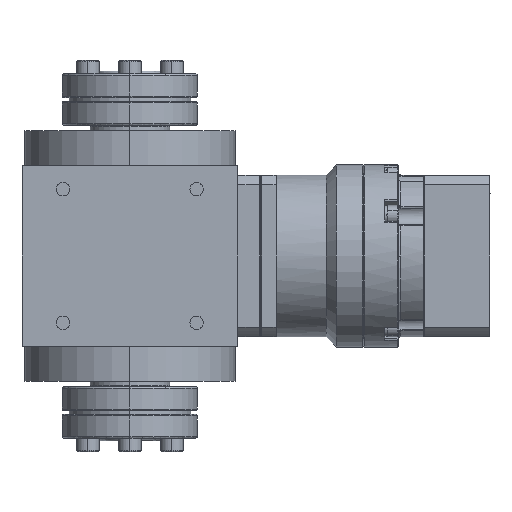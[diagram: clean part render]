
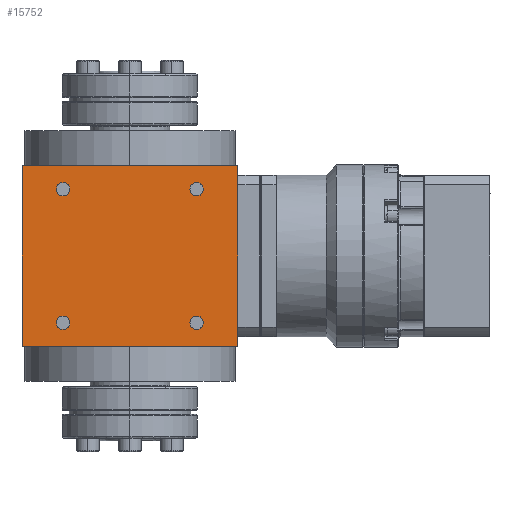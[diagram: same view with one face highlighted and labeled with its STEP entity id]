
A CAD part, left-side view. The second image highlights one B-rep face of the part: STEP entity #15752.
In plain terms, the highlighted planar face has unit normal (-1, 0, 0).
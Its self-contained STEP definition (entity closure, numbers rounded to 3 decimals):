
#1110 = ORIENTED_EDGE ( 'NONE', *, *, #10620, .T. ) ;
#1985 = DIRECTION ( 'NONE',  ( 0., -1., 0. ) ) ;
#2015 = CARTESIAN_POINT ( 'NONE',  ( -40., -40., -33.5 ) ) ;
#2031 = FACE_BOUND ( 'NONE', #3120, .T. ) ;
#2260 = AXIS2_PLACEMENT_3D ( 'NONE', #31205, #8924, #5743 ) ;
#2408 = DIRECTION ( 'NONE',  ( 0., 0., 1. ) ) ;
#2791 = CARTESIAN_POINT ( 'NONE',  ( -40., 24.749, -24.749 ) ) ;
#2846 = AXIS2_PLACEMENT_3D ( 'NONE', #10880, #11052, #22199 ) ;
#3120 = EDGE_LOOP ( 'NONE', ( #7976, #27048 ) ) ;
#3171 = CARTESIAN_POINT ( 'NONE',  ( -40., -40., 33.5 ) ) ;
#3531 = CARTESIAN_POINT ( 'NONE',  ( -40., -22.249, 24.749 ) ) ;
#4159 = ORIENTED_EDGE ( 'NONE', *, *, #10598, .T. ) ;
#5093 = ORIENTED_EDGE ( 'NONE', *, *, #7721, .T. ) ;
#5448 = EDGE_LOOP ( 'NONE', ( #28177, #9777 ) ) ;
#5529 = CARTESIAN_POINT ( 'NONE',  ( -40., 40., -33.5 ) ) ;
#5708 = CARTESIAN_POINT ( 'NONE',  ( -40., 27.249, -24.749 ) ) ;
#5709 = DIRECTION ( 'NONE',  ( 0., -1., 0. ) ) ;
#5743 = DIRECTION ( 'NONE',  ( 0., -1., 0. ) ) ;
#5856 = ORIENTED_EDGE ( 'NONE', *, *, #13141, .F. ) ;
#6866 = CARTESIAN_POINT ( 'NONE',  ( -40., -22.249, -24.749 ) ) ;
#7721 = EDGE_CURVE ( 'NONE', #26248, #22637, #9272, .T. ) ;
#7976 = ORIENTED_EDGE ( 'NONE', *, *, #16699, .T. ) ;
#8655 = ORIENTED_EDGE ( 'NONE', *, *, #23087, .T. ) ;
#8760 = VECTOR ( 'NONE', #21172, 1000. ) ;
#8808 = VERTEX_POINT ( 'NONE', #13868 ) ;
#8924 = DIRECTION ( 'NONE',  ( 1., 0., 0. ) ) ;
#9272 = CIRCLE ( 'NONE', #27656, 2.5 ) ;
#9520 = CARTESIAN_POINT ( 'NONE',  ( -40., 40., 33.5 ) ) ;
#9777 = ORIENTED_EDGE ( 'NONE', *, *, #35123, .T. ) ;
#9845 = CARTESIAN_POINT ( 'NONE',  ( -40., 0., -33.5 ) ) ;
#10333 = AXIS2_PLACEMENT_3D ( 'NONE', #21916, #30834, #24689 ) ;
#10598 = EDGE_CURVE ( 'NONE', #31717, #23980, #13746, .T. ) ;
#10620 = EDGE_CURVE ( 'NONE', #29824, #26380, #15667, .T. ) ;
#10880 = CARTESIAN_POINT ( 'NONE',  ( -40., -24.749, -24.749 ) ) ;
#11052 = DIRECTION ( 'NONE',  ( 1., 0., 0. ) ) ;
#11162 = DIRECTION ( 'NONE',  ( 0., -1., 0. ) ) ;
#11842 = AXIS2_PLACEMENT_3D ( 'NONE', #2791, #19878, #11162 ) ;
#11857 = CARTESIAN_POINT ( 'NONE',  ( -40., -24.749, -24.749 ) ) ;
#11895 = AXIS2_PLACEMENT_3D ( 'NONE', #15595, #15769, #1985 ) ;
#12061 = EDGE_LOOP ( 'NONE', ( #12415, #1110 ) ) ;
#12178 = DIRECTION ( 'NONE',  ( 0., -1., 0. ) ) ;
#12415 = ORIENTED_EDGE ( 'NONE', *, *, #23880, .T. ) ;
#12957 = CIRCLE ( 'NONE', #2846, 2.5 ) ;
#12970 = CIRCLE ( 'NONE', #2260, 2.5 ) ;
#13141 = EDGE_CURVE ( 'NONE', #36591, #15647, #34169, .T. ) ;
#13217 = VERTEX_POINT ( 'NONE', #6866 ) ;
#13379 = DIRECTION ( 'NONE',  ( 0., 0., 1. ) ) ;
#13390 = CARTESIAN_POINT ( 'NONE',  ( -40., 40., -33.5 ) ) ;
#13746 = LINE ( 'NONE', #2015, #29825 ) ;
#13868 = CARTESIAN_POINT ( 'NONE',  ( -40., -27.249, 24.749 ) ) ;
#14617 = LINE ( 'NONE', #25566, #23230 ) ;
#15595 = CARTESIAN_POINT ( 'NONE',  ( -40., -24.749, 24.749 ) ) ;
#15647 = VERTEX_POINT ( 'NONE', #9520 ) ;
#15667 = CIRCLE ( 'NONE', #10333, 2.5 ) ;
#15752 = ADVANCED_FACE ( 'NONE', ( #24348, #27498, #2031, #19493, #22280 ), #18773, .T. ) ;
#15769 = DIRECTION ( 'NONE',  ( 1., 0., 0. ) ) ;
#16064 = CARTESIAN_POINT ( 'NONE',  ( -40., -40., -33.5 ) ) ;
#16268 = DIRECTION ( 'NONE',  ( 0., -1., 0. ) ) ;
#16699 = EDGE_CURVE ( 'NONE', #36154, #13217, #12957, .T. ) ;
#17195 = DIRECTION ( 'NONE',  ( 1., 0., 0. ) ) ;
#18485 = CARTESIAN_POINT ( 'NONE',  ( -40., -27.249, -24.749 ) ) ;
#18773 = PLANE ( 'NONE',  #34814 ) ;
#19493 = FACE_BOUND ( 'NONE', #5448, .T. ) ;
#19878 = DIRECTION ( 'NONE',  ( 1., 0., 0. ) ) ;
#20048 = DIRECTION ( 'NONE',  ( 0., 0., 1. ) ) ;
#21144 = VERTEX_POINT ( 'NONE', #3531 ) ;
#21172 = DIRECTION ( 'NONE',  ( 0., -1., 0. ) ) ;
#21570 = EDGE_CURVE ( 'NONE', #13217, #36154, #27701, .T. ) ;
#21916 = CARTESIAN_POINT ( 'NONE',  ( -40., 24.749, -24.749 ) ) ;
#22021 = EDGE_LOOP ( 'NONE', ( #5856, #8655, #4159, #29405 ) ) ;
#22199 = DIRECTION ( 'NONE',  ( 0., -1., 0. ) ) ;
#22280 = FACE_BOUND ( 'NONE', #30060, .T. ) ;
#22637 = VERTEX_POINT ( 'NONE', #35514 ) ;
#23087 = EDGE_CURVE ( 'NONE', #36591, #31717, #26748, .T. ) ;
#23230 = VECTOR ( 'NONE', #31344, 1000. ) ;
#23880 = EDGE_CURVE ( 'NONE', #26380, #29824, #29543, .T. ) ;
#23980 = VERTEX_POINT ( 'NONE', #3171 ) ;
#24348 = FACE_OUTER_BOUND ( 'NONE', #22021, .T. ) ;
#24689 = DIRECTION ( 'NONE',  ( 0., -1., 0. ) ) ;
#24705 = DIRECTION ( 'NONE',  ( -1., 0., 0. ) ) ;
#25212 = DIRECTION ( 'NONE',  ( 1., 0., 0. ) ) ;
#25566 = CARTESIAN_POINT ( 'NONE',  ( -40., 0., 33.5 ) ) ;
#25742 = EDGE_CURVE ( 'NONE', #8808, #21144, #33256, .T. ) ;
#25893 = ORIENTED_EDGE ( 'NONE', *, *, #34422, .T. ) ;
#26191 = CARTESIAN_POINT ( 'NONE',  ( -40., 40., -33.5 ) ) ;
#26248 = VERTEX_POINT ( 'NONE', #35953 ) ;
#26273 = CARTESIAN_POINT ( 'NONE',  ( -40., 22.249, -24.749 ) ) ;
#26380 = VERTEX_POINT ( 'NONE', #26273 ) ;
#26748 = LINE ( 'NONE', #9845, #8760 ) ;
#27048 = ORIENTED_EDGE ( 'NONE', *, *, #21570, .T. ) ;
#27498 = FACE_BOUND ( 'NONE', #12061, .T. ) ;
#27656 = AXIS2_PLACEMENT_3D ( 'NONE', #34091, #17195, #12178 ) ;
#27701 = CIRCLE ( 'NONE', #32476, 2.5 ) ;
#28177 = ORIENTED_EDGE ( 'NONE', *, *, #25742, .T. ) ;
#29405 = ORIENTED_EDGE ( 'NONE', *, *, #33721, .F. ) ;
#29543 = CIRCLE ( 'NONE', #11842, 2.5 ) ;
#29824 = VERTEX_POINT ( 'NONE', #5708 ) ;
#29825 = VECTOR ( 'NONE', #13379, 1000. ) ;
#30025 = CARTESIAN_POINT ( 'NONE',  ( -40., -24.749, 24.749 ) ) ;
#30060 = EDGE_LOOP ( 'NONE', ( #5093, #25893 ) ) ;
#30827 = CIRCLE ( 'NONE', #33760, 2.5 ) ;
#30834 = DIRECTION ( 'NONE',  ( 1., 0., 0. ) ) ;
#31205 = CARTESIAN_POINT ( 'NONE',  ( -40., 24.749, 24.749 ) ) ;
#31344 = DIRECTION ( 'NONE',  ( 0., -1., 0. ) ) ;
#31717 = VERTEX_POINT ( 'NONE', #16064 ) ;
#32476 = AXIS2_PLACEMENT_3D ( 'NONE', #11857, #25212, #5709 ) ;
#33256 = CIRCLE ( 'NONE', #11895, 2.5 ) ;
#33721 = EDGE_CURVE ( 'NONE', #15647, #23980, #14617, .T. ) ;
#33760 = AXIS2_PLACEMENT_3D ( 'NONE', #30025, #35956, #16268 ) ;
#34091 = CARTESIAN_POINT ( 'NONE',  ( -40., 24.749, 24.749 ) ) ;
#34169 = LINE ( 'NONE', #26191, #35347 ) ;
#34422 = EDGE_CURVE ( 'NONE', #22637, #26248, #12970, .T. ) ;
#34814 = AXIS2_PLACEMENT_3D ( 'NONE', #13390, #24705, #2408 ) ;
#35123 = EDGE_CURVE ( 'NONE', #21144, #8808, #30827, .T. ) ;
#35347 = VECTOR ( 'NONE', #20048, 1000. ) ;
#35514 = CARTESIAN_POINT ( 'NONE',  ( -40., 27.249, 24.749 ) ) ;
#35953 = CARTESIAN_POINT ( 'NONE',  ( -40., 22.249, 24.749 ) ) ;
#35956 = DIRECTION ( 'NONE',  ( 1., 0., 0. ) ) ;
#36154 = VERTEX_POINT ( 'NONE', #18485 ) ;
#36591 = VERTEX_POINT ( 'NONE', #5529 ) ;
